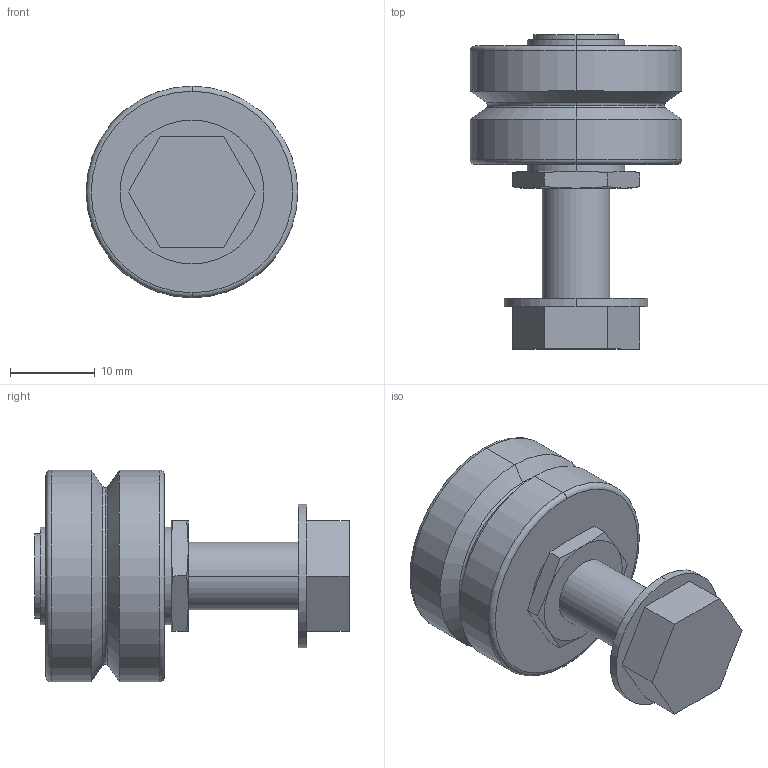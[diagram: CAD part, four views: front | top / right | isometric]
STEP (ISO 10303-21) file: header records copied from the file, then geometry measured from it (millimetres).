
FILE_DESCRIPTION(('STEP AP203'),'1');
FILE_NAME('rlfj_25_c_ns.stp','2020-09-28T14:27:00',('TraceParts'),('TraceParts S.A.'),'Spatial InterOp 3D',' ',' ');
FILE_SCHEMA(('CONFIG_CONTROL_DESIGN'));
Length unit declared in the file: millimetre
Products named in the file (1): 1
Bounding box: 25 x 37.1 x 25 mm (x, y, z)
Volume: 8669.2 mm3; surface area: 5423.8 mm2
Topology: 3 solids, 3 shells, 69 faces, 148 edges, 90 vertices
Faces by surface type: plane 29, cylinder 16, cone 16, torus 8
Entity records: 1940 total; most frequent: CARTESIAN_POINT 382, DIRECTION 330, ORIENTED_EDGE 296, EDGE_CURVE 148, AXIS2_PLACEMENT_3D 134, VERTEX_POINT 90, EDGE_LOOP 78, ADVANCED_FACE 69
